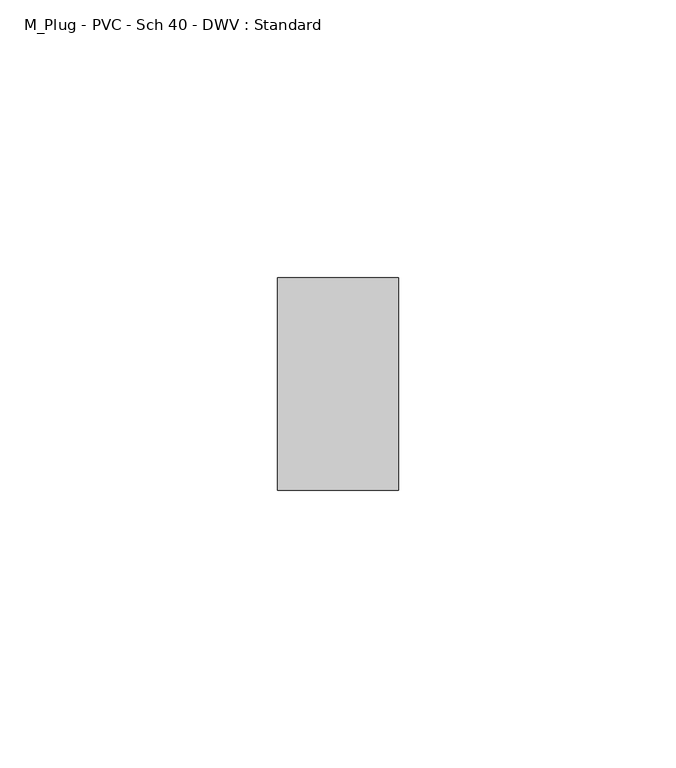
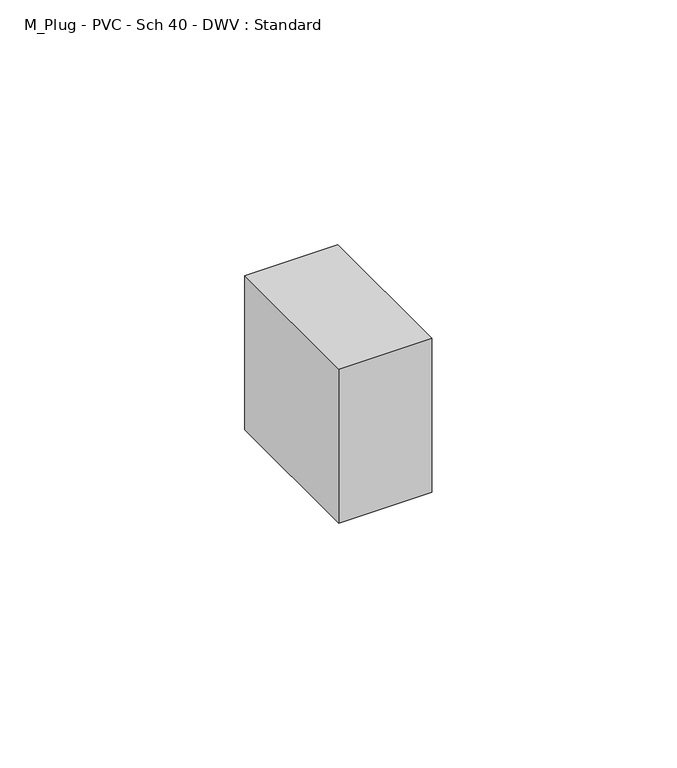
"""IFC4 building model written with IfcOpenShell, lengths in millimetres: pipe fitting geometry, M_Plug - PVC - Sch 40 - DWV : Standard."""

from ifc_helpers import new_model, si_unit, frame, origin, place, context, project, spatial, polyline, outline, extrude, source, transform, mapped, element, save


def m_plug_pvc_sch_40_dwv_standard_af737ab4(model_context):
    return source(origin(), model_context, "Body", "SweptSolid", [
        extrude(outline(polyline([(21.8484375, 19.1820312), (21.8484375, -19.1820313), (0.0, -19.1820313), (0.0, 19.1820312), (21.8484375, 19.1820312)])), frame((0.0, 0.0, -19.1820313), z_axis=(0.0, 0.0, 1.0), x_axis=(1.0, 0.0, 0.0)), (0.0, 0.0, 1.0), 38.3640625),
    ])


if __name__ == "__main__":
    model = new_model("IFC4")
    model_context = context("Model", 3, world=origin())
    ifc_project = project(units=[si_unit("LENGTHUNIT", "METRE", prefix="MILLI")], contexts=[model_context])
    site = spatial("IfcSite", under=ifc_project)
    building = spatial("IfcBuilding", under=site)
    placement = place(None, origin())
    m_plug_pvc_sch_40_dwv_standard_shape = m_plug_pvc_sch_40_dwv_standard_af737ab4(model_context)
    element("IfcPipeFitting", 1, ObjectType="M_Plug - PVC - Sch 40 - DWV : Standard", at=placement, inside=building, context=model_context, shape_type="MappedRepresentation", body=[
        mapped(m_plug_pvc_sch_40_dwv_standard_shape, transform((0.0, 0.0, 0.0), x_axis=(1.0, 0.0, 0.0), y_axis=(0.0, 1.0, 0.0), z_axis=(0.0, 0.0, 1.0))),
    ])
    save(model, "model.ifc")
